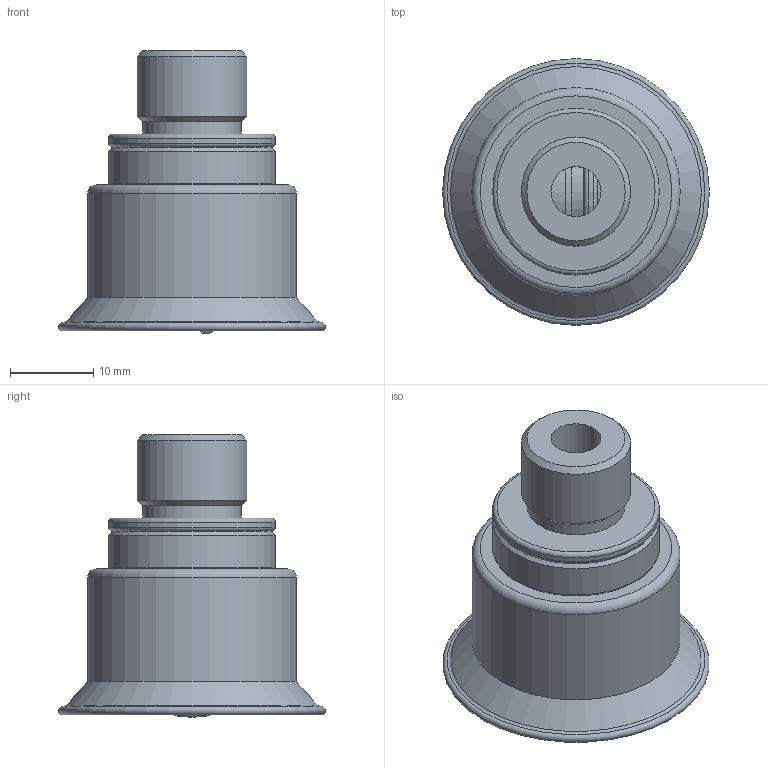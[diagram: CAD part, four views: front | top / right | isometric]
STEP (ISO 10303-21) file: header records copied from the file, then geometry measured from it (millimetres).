
FILE_DESCRIPTION( ( 'Unknown' ), '1' );
FILE_NAME( 'D:/弥龋覆(冠固急)/Smart Cup/寇何侩-唱荤魂TYPE/FCF30-14M.stp', 'Unknown', ( 'Unknown' ), ( 'Unknown' ), 'PSStep 10.0', 'Unknown', ' ' );
FILE_SCHEMA( ( 'AUTOMOTIVE_DESIGN { 1 0 10303 214 1 1 1 1 }' ) );
Length unit declared in the file: millimetre
Products named in the file (4): Assem1; FCF30; FCF30-VDF40-18F售; C1814D
Bounding box: 32 x 32 x 33.9 mm (x, y, z)
Volume: 18439.5 mm3; surface area: 20042.9 mm2
Topology: 6 solids, 6 shells, 150 faces, 254 edges, 152 vertices
Faces by surface type: cylinder 56, plane 48, cone 34, torus 12
Full cylindrical faces by diameter (mm): 6 x2, 6.928 x2, 7.5 x2, 8.566 x2, 8.8 x2, 9 x2, 9.8 x2, 10 x2, 11 x2, 11.8 x4, 13.1 x2, 13.8 x10, 20 x6, 21.8 x6, 22 x6, 23 x2, 25 x2
Entity records: 2185 total; most frequent: DIRECTION 308, CARTESIAN_POINT 229, AXIS2_PLACEMENT_3D 154, EDGE_LOOP 150, ORIENTED_EDGE 150, FACE_OUTER_BOUND 109, STYLED_ITEM 75, PRESENTATION_STYLE_ASSIGNMENT 75
